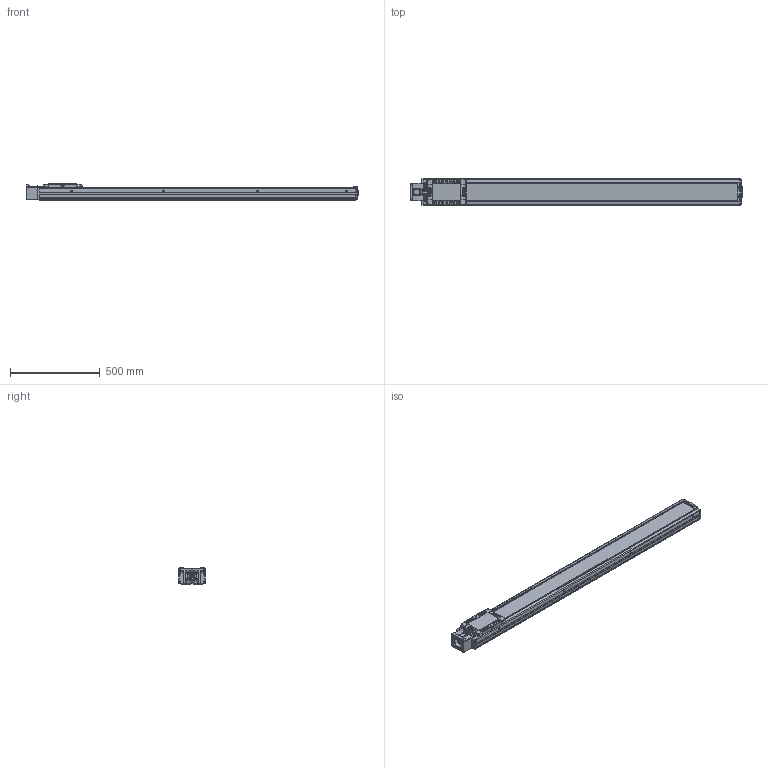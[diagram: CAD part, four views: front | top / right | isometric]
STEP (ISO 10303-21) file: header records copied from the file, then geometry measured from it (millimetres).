
FILE_DESCRIPTION(('STEP AP214'),'1');
FILE_NAME('Z:/Web/3D/SAN150/2013.04 (STP.)/SAN150ㅁㅁ-1500S.stp','2013-05-07T08:17:44',(' '),(' '),'Spatial InterOp 3D',' ',' ');
FILE_SCHEMA(('automotive_design'));
Length unit declared in the file: millimetre
Products named in the file (79): SLBL-SAN150; SLCV-SAN150; FHCS M4.0 x 8.0; BHCS M4.0 x 10.0; SFX-SAN150; RRCV-SAN150; FRBL-SAN150; Spacer; RN15; FRCV-SAN150; Screw 20; BASE-SAN150-000L ; SUS COVER; 스크루 : Round - M5.0 x 6.0; BHCS M3.0 x 6.0; SSFX-SAN65; CPLCV-SAN65; SDWA47C(2); SDWA47C(3-1); SDWA47C(3); SDWA47C(1); SDWA47C(4); SDWA47C(5); MTHZ-SAN150-80
Bounding box: 1849 x 150 x 90 mm (x, y, z)
Volume: 9493458.8 mm3; surface area: 1765094.5 mm2
Topology: 79 solids, 79 shells, 3147 faces, 8175 edges, 5245 vertices
Faces by surface type: cylinder 1307, plane 1270, cone 461, sphere 64, bspline 29, torus 16
Entity records: 127598 total; most frequent: CARTESIAN_POINT 21472, DIRECTION 17791, ORIENTED_EDGE 16046, EDGE_CURVE 8023, AXIS2_PLACEMENT_3D 6767, VERTEX_POINT 5245, LINE 4257, VECTOR 4257
